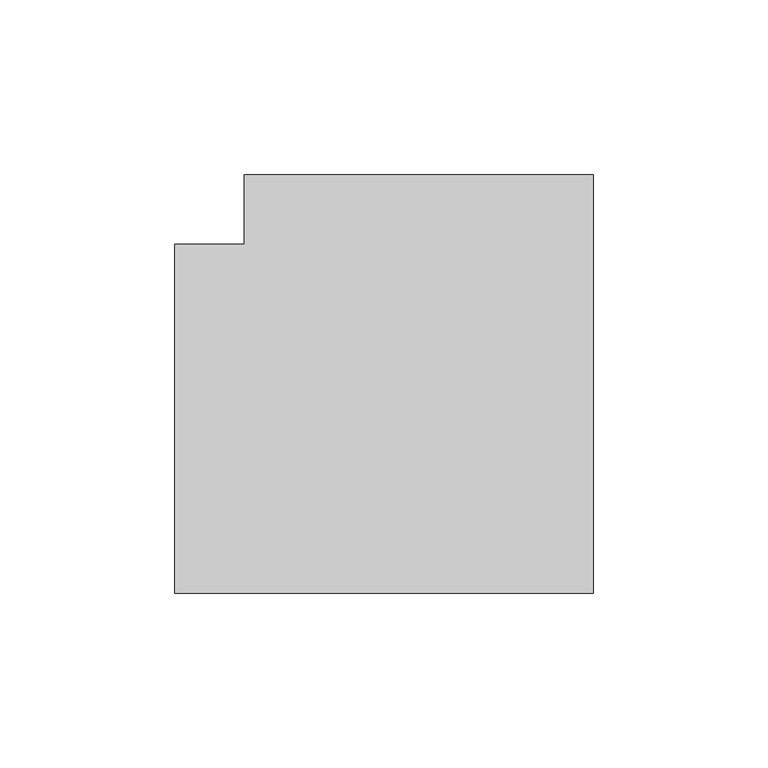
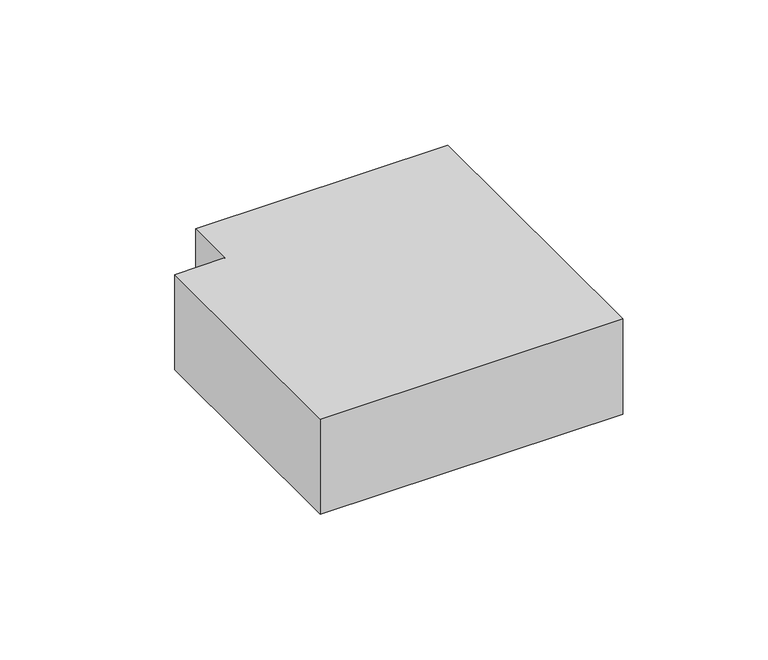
"""IFC4 building model written with IfcOpenShell, lengths in millimetres: duct fitting geometry, КНС_Угол_DKC : Угол внешний."""

from ifc_helpers import new_model, si_unit, frame, origin, place, context, project, spatial, polyline, outline, extrude, source, transform, mapped, element, save


def duct_fitting_c4454b5f(model_context):
    return source(origin(), model_context, "Body", "SweptSolid", [
        extrude(outline(polyline([(-50.0, 70.0), (50.0, 70.0), (50.0, -50.0), (-70.0, -50.0), (-70.0, 50.0), (-50.0, 50.0), (-50.0, 70.0)])), frame((0.0, 0.0, -20.0), z_axis=(0.0, 0.0, 1.0), x_axis=(1.0, 0.0, 0.0)), (0.0, 0.0, 1.0), 40.0),
    ])


if __name__ == "__main__":
    model = new_model("IFC4")
    model_context = context("Model", 3, world=origin())
    ifc_project = project(units=[si_unit("LENGTHUNIT", "METRE", prefix="MILLI")], contexts=[model_context])
    site = spatial("IfcSite", under=ifc_project)
    building = spatial("IfcBuilding", under=site)
    placement = place(None, origin())
    duct_fitting_shape = duct_fitting_c4454b5f(model_context)
    element("IfcDuctFitting", 1, ObjectType="КНС_Угол_DKC : Угол внешний", at=placement, inside=building, context=model_context, shape_type="MappedRepresentation", body=[
        mapped(duct_fitting_shape, transform((0.0, 0.0, 0.0), x_axis=(1.0, 0.0, 0.0), y_axis=(0.0, 1.0, 0.0), z_axis=(0.0, 0.0, 1.0))),
    ])
    save(model, "model.ifc")
